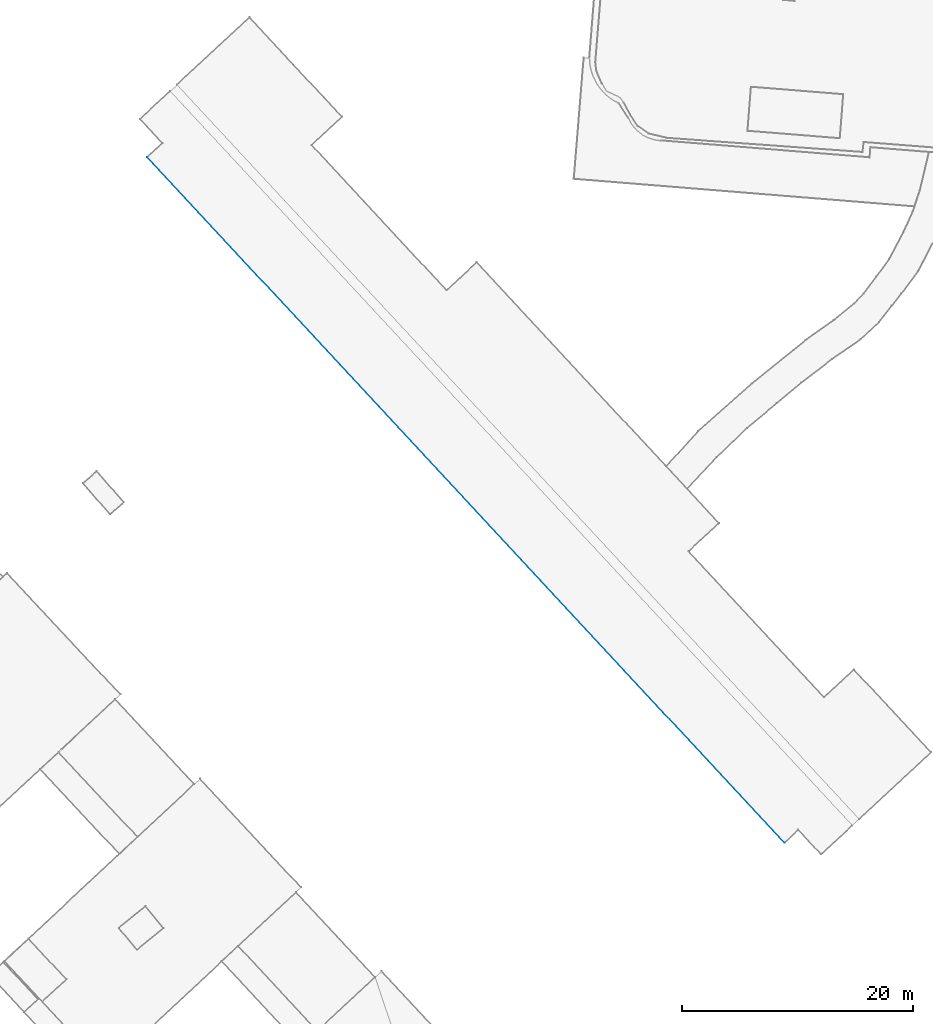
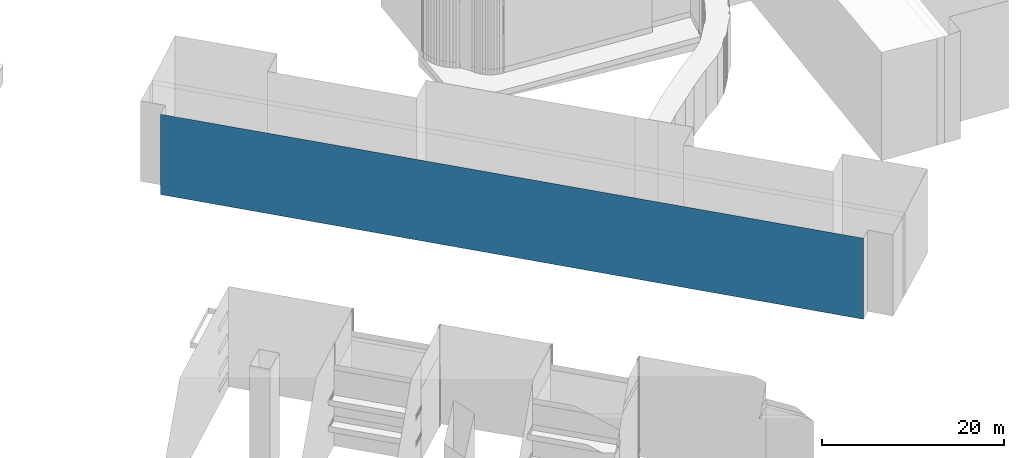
# Not in any storey, part 31 of 136: 1 wall.
"""IFC4 building model written with IfcOpenShell, lengths in metres."""

from ifc_helpers import new_model, entity, si_unit, converted_unit, origin, place, context, subcontext, project, spatial, face_set, surface_model, element, save


model = new_model("IFC4")

# Units and contexts
model_context = context("Model", 3, precision=1e-05, world=origin())
body_context = subcontext(model_context, "Body", "Model", "MODEL_VIEW")
ifc_project = project(units=[converted_unit("PLANEANGLEUNIT", "DEGREE", entity("IfcRatioMeasure", 0.0174532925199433), si_unit("PLANEANGLEUNIT", "RADIAN"), dimensions=[0, 0, 0, 0, 0, 0, 0]), si_unit("AREAUNIT", "SQUARE_METRE"), si_unit("LENGTHUNIT", "METRE")], contexts=[model_context])

# Site, building
site_placement = place(None, origin())
site = spatial("IfcSite", under=ifc_project, at=site_placement, Name="_site")
building_placement = place(site_placement, origin())
building = spatial("IfcBuilding", under=site, at=building_placement, Name="_building")

# Wall
wall_placement = place(building_placement, origin())
element("IfcWall", 1, at=wall_placement, inside=building, Name="Wall", PredefinedType="NOTDEFINED", context=body_context, shape_type="SurfaceModel", body=[
    surface_model("IfcFaceBasedSurfaceModel", [(192.04, -8.32, 48.81), (136.9, 51.021, 48.81), (136.9, 51.021, 38.0), (192.04, -8.32, 37.905)], [face_set([[[0, 1, 2, 3]]])]),
])

save(model, "model.ifc")
